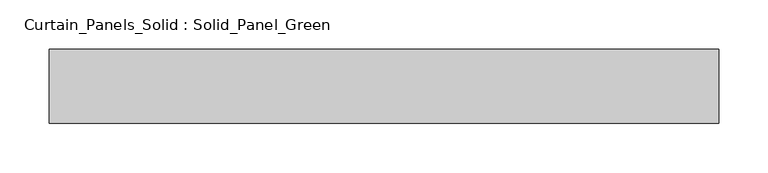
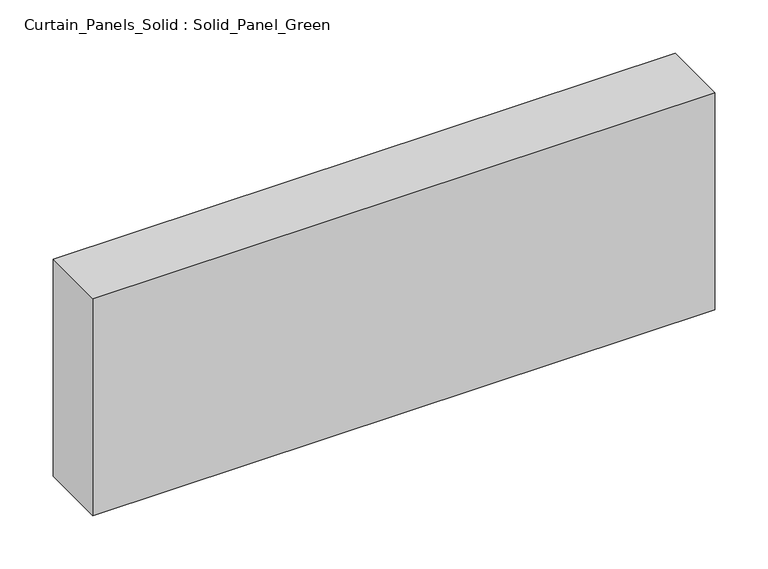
"""IFC4 building model written with IfcOpenShell, lengths in millimetres: plate geometry, Curtain_Panels_Solid : Solid_Panel_Green."""

from ifc_helpers import new_model, si_unit, origin, origin_with_axes, place, context, project, spatial, polyline, outline, extrude, source, transform, mapped, element, save


def curtain_panels_solid_solid_panel_green_bd01b994(model_context):
    return source(origin(), model_context, "Body", "SweptSolid", [
        extrude(outline(polyline([(338.7500001, -25.0), (-338.7500001, -25.0), (-338.7500001, 50.0), (338.7500001, 50.0), (338.7500001, -25.0)])), origin_with_axes(), (0.0, 0.0, 1.0), 250.0),
    ])


if __name__ == "__main__":
    model = new_model("IFC4")
    model_context = context("Model", 3, world=origin())
    ifc_project = project(units=[si_unit("LENGTHUNIT", "METRE", prefix="MILLI")], contexts=[model_context])
    site = spatial("IfcSite", under=ifc_project)
    building = spatial("IfcBuilding", under=site)
    placement = place(None, origin())
    curtain_panels_solid_solid_panel_green_shape = curtain_panels_solid_solid_panel_green_bd01b994(model_context)
    element("IfcPlate", 1, ObjectType="Curtain_Panels_Solid : Solid_Panel_Green", at=placement, inside=building, context=model_context, shape_type="MappedRepresentation", body=[
        mapped(curtain_panels_solid_solid_panel_green_shape, transform((0.0, 0.0, 0.0), x_axis=(1.0, 0.0, 0.0), y_axis=(0.0, 1.0, 0.0), z_axis=(0.0, 0.0, 1.0))),
    ])
    save(model, "model.ifc")
